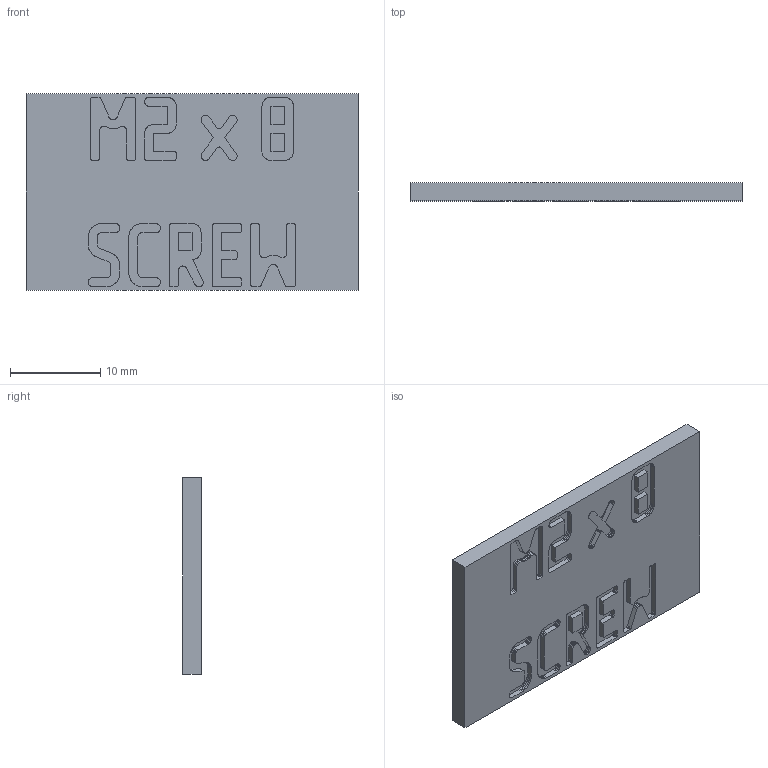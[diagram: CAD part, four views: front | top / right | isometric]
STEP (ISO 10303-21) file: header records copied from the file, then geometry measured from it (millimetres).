
FILE_DESCRIPTION(('Open CASCADE Model'),'2;1');
FILE_NAME('Open CASCADE Shape Model','2026-11-03T17:10:11',('Author'),( 'Open CASCADE'),'Open CASCADE STEP processor 8.0','build123d', 'Unknown');
FILE_SCHEMA(('AUTOMOTIVE_DESIGN { 1 0 10303 214 1 1 1 1 }'));
Length unit declared in the file: millimetre
Products named in the file (2): =>[0:1:1:2]; COMPOUND
Assembly tree (1 placements, depth 2):
  =>[0:1:1:2]
    COMPOUND
Bounding box: 36.8 x 2 x 21.8 mm (x, y, z)
Volume: 1523.5 mm3; surface area: 1994.9 mm2
Topology: 1 solids, 1 shells, 1004 faces, 2970 edges, 1980 vertices
Faces by surface type: plane 1004
Entity records: 71452 total; most frequent: CARTESIAN_POINT 11896, DIRECTION 10922, LINE 8910, VECTOR 8910, ORIENTED_EDGE 5940, PCURVE 5940, DEFINITIONAL_REPRESENTATION 5940, EDGE_CURVE 2970
